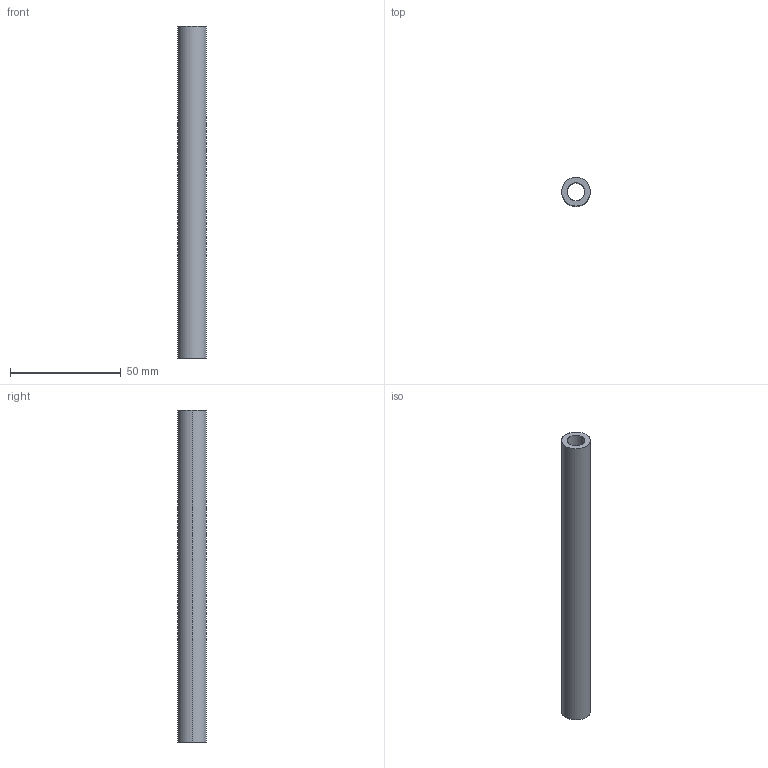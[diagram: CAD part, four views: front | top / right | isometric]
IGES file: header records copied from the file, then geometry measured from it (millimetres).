
Global section: file name: E:\UnigraphicsGraphicData\MISUMI_PRESS-PARTS\IGES\3d_sb13-150_00133_r00.igs; native system: NX V5.0; preprocessor: UGS NX IGES V5.0; author: MISUMI; date: 20110105.162424; units: millimetre
Bounding box: 13 x 13 x 150 mm (x, y, z)
Surface area: 10061.5 mm2 (no closed solid volume)
Topology: 0 solids, 0 shells, 6 faces, 48 edges, 48 vertices
Faces by surface type: bspline 6
